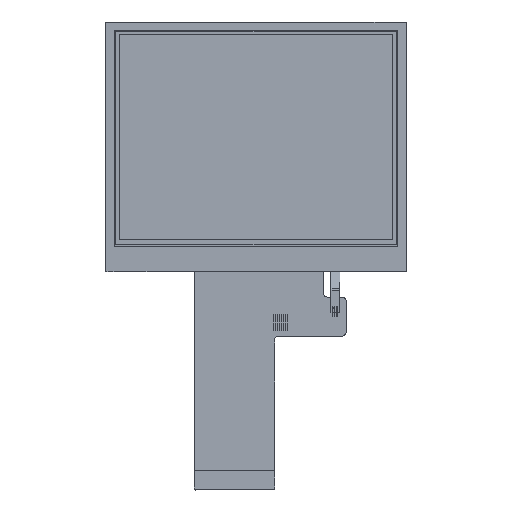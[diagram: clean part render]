
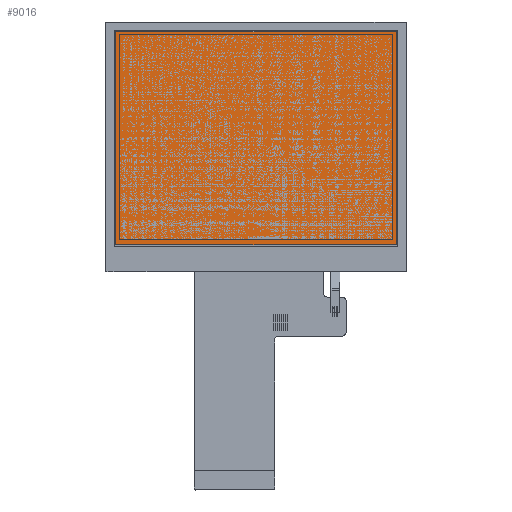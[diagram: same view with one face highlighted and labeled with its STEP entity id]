
A CAD part, top view. The second image highlights one B-rep face of the part: STEP entity #9016.
In plain terms, the highlighted planar face has unit normal (0, 0, 1).
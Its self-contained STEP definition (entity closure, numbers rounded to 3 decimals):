
#110 = EDGE_LOOP ( 'NONE', ( #2244, #6325, #8853, #3998 ) ) ;
#388 = CARTESIAN_POINT ( 'NONE',  ( 3518.121, -1227.414, 0. ) ) ;
#446 = LINE ( 'NONE', #8227, #1140 ) ;
#691 = CARTESIAN_POINT ( 'NONE',  ( 3589.801, -1172.854, 0. ) ) ;
#716 = EDGE_CURVE ( 'NONE', #5427, #7643, #3112, .T. ) ;
#1140 = VECTOR ( 'NONE', #1830, 1000. ) ;
#1830 = DIRECTION ( 'NONE',  ( 0., -1., 0. ) ) ;
#1929 = CARTESIAN_POINT ( 'NONE',  ( 3518.121, -1200.134, 0. ) ) ;
#1970 = PLANE ( 'NONE',  #8141 ) ;
#1975 = VERTEX_POINT ( 'NONE', #6698 ) ;
#2190 = LINE ( 'NONE', #5654, #3383 ) ;
#2244 = ORIENTED_EDGE ( 'NONE', *, *, #7780, .T. ) ;
#2630 = DIRECTION ( 'NONE',  ( 1., 0., 0. ) ) ;
#3112 = LINE ( 'NONE', #8013, #6191 ) ;
#3383 = VECTOR ( 'NONE', #3563, 1000. ) ;
#3563 = DIRECTION ( 'NONE',  ( -1., 0., 0. ) ) ;
#3908 = VERTEX_POINT ( 'NONE', #691 ) ;
#3998 = ORIENTED_EDGE ( 'NONE', *, *, #6762, .T. ) ;
#4614 = DIRECTION ( 'NONE',  ( 1., 0., 0. ) ) ;
#4830 = FACE_OUTER_BOUND ( 'NONE', #110, .T. ) ;
#4880 = EDGE_CURVE ( 'NONE', #7643, #3908, #5511, .T. ) ;
#5427 = VERTEX_POINT ( 'NONE', #388 ) ;
#5511 = LINE ( 'NONE', #8468, #7546 ) ;
#5654 = CARTESIAN_POINT ( 'NONE',  ( 3518.121, -1172.854, 0. ) ) ;
#6116 = DIRECTION ( 'NONE',  ( 0., 1., 0. ) ) ;
#6191 = VECTOR ( 'NONE', #4614, 1000. ) ;
#6325 = ORIENTED_EDGE ( 'NONE', *, *, #716, .T. ) ;
#6377 = DIRECTION ( 'NONE',  ( 0., 0., 1. ) ) ;
#6698 = CARTESIAN_POINT ( 'NONE',  ( 3518.121, -1172.854, 0. ) ) ;
#6762 = EDGE_CURVE ( 'NONE', #3908, #1975, #2190, .T. ) ;
#7546 = VECTOR ( 'NONE', #6116, 1000. ) ;
#7643 = VERTEX_POINT ( 'NONE', #8791 ) ;
#7780 = EDGE_CURVE ( 'NONE', #1975, #5427, #446, .T. ) ;
#8013 = CARTESIAN_POINT ( 'NONE',  ( 3589.801, -1227.414, 0. ) ) ;
#8141 = AXIS2_PLACEMENT_3D ( 'NONE', #1929, #6377, #2630 ) ;
#8227 = CARTESIAN_POINT ( 'NONE',  ( 3518.121, -1227.414, 0. ) ) ;
#8468 = CARTESIAN_POINT ( 'NONE',  ( 3589.801, -1172.854, 0. ) ) ;
#8791 = CARTESIAN_POINT ( 'NONE',  ( 3589.801, -1227.414, 0. ) ) ;
#8853 = ORIENTED_EDGE ( 'NONE', *, *, #4880, .T. ) ;
#9016 = ADVANCED_FACE ( 'NONE', ( #4830 ), #1970, .T. ) ;
